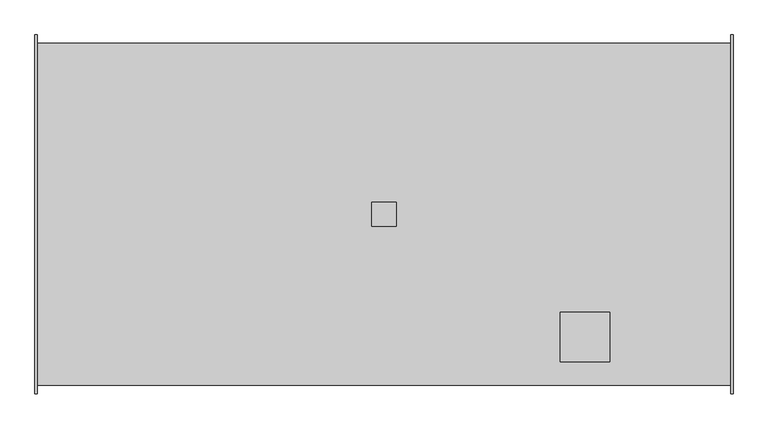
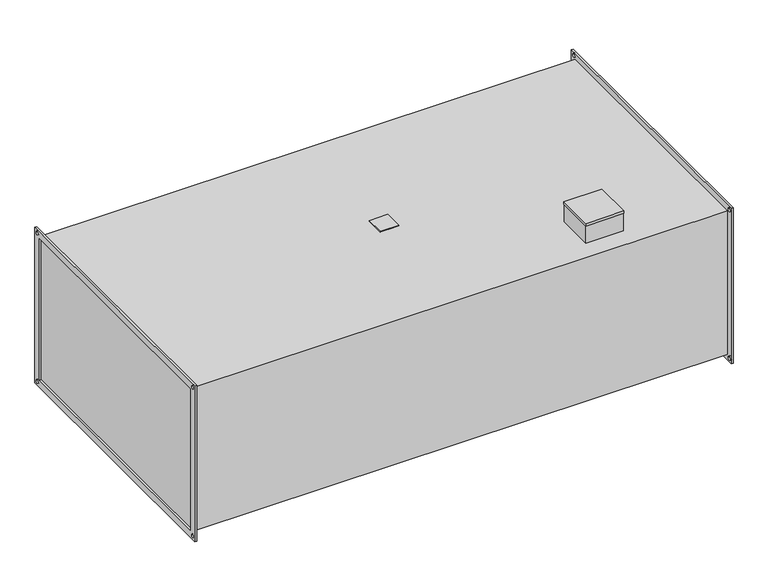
"""IFC4 building model written with IfcOpenShell, lengths in millimetres: damper geometry, KORF_Секция бактерицидной обработки воздуха_SBOW : SBOW 70-40/111 (36)."""

from ifc_helpers import new_model, si_unit, point, frame, frame_2d, origin, place, context, project, spatial, polyline, circle_curve, trimmed, segment, composite_curve, outline, extrude, faceted_brep, source, transform, mapped, element, save


def damper_4910c77a(model_context):
    return source(origin(), model_context, "Body", "SolidModel", [
        extrude(outline(polyline([(695.0, -25.0), (695.0, 25.0), (745.0, 25.0), (745.0, -25.0), (695.0, -25.0)])), frame((0.0, 0.0, 203.0), z_axis=(0.0, 0.0, 1.0), x_axis=(1.0, 0.0, 0.0)), (0.0, 0.0, 1.0), 2.0),
        faceted_brep([(1186.0, -202.0, 260.0), (1084.0, -202.0, 260.0), (1084.0, -304.0, 260.0), (1186.0, -304.0, 260.0), (1186.0, -202.0, 253.0), (1186.0, -304.0, 253.0), (1084.0, -304.0, 253.0), (1084.0, -202.0, 253.0), (1185.0, -203.0, 253.0), (1085.0, -203.0, 253.0), (1085.0, -303.0, 253.0), (1185.0, -303.0, 253.0), (1185.0, -203.0, 203.0), (1185.0, -303.0, 203.0), (1085.0, -303.0, 203.0), (1085.0, -203.0, 203.0)], [[[0, 1, 2, 3]], [[4, 5, 6, 7], [8, 9, 10, 11]], [[1, 0, 4, 7]], [[2, 1, 7, 6]], [[3, 2, 6, 5]], [[0, 3, 5, 4]], [[12, 13, 14, 15]], [[12, 15, 9, 8]], [[15, 14, 10, 9]], [[14, 13, 11, 10]], [[13, 12, 8, 11]]]),
        extrude(outline(polyline([(-370.0, 220.0), (370.0, 220.0), (370.0, -220.0), (-370.0, -220.0), (-370.0, 220.0)]), holes=[polyline([(-350.0, 200.0), (-350.0, -200.0), (350.0, -200.0), (350.0, 200.0), (-350.0, 200.0)]), composite_curve([segment(trimmed(circle_curve(frame_2d((360.0, 210.0)), 4.5), [point((355.5, 210.0))], [point((364.5, 210.0))], True, "CARTESIAN"), True, "CONTINUOUS"), segment(trimmed(circle_curve(frame_2d((360.0, 210.0)), 4.5), [point((364.5, 210.0))], [point((355.5, 210.0))], True, "CARTESIAN"), True, "CONTINUOUS")], self_intersect=False), composite_curve([segment(trimmed(circle_curve(frame_2d((-360.0, 210.0)), 4.5), [point((-364.5, 210.0))], [point((-355.5, 210.0))], True, "CARTESIAN"), True, "CONTINUOUS"), segment(trimmed(circle_curve(frame_2d((-360.0, 210.0)), 4.5), [point((-355.5, 210.0))], [point((-364.5, 210.0))], True, "CARTESIAN"), True, "CONTINUOUS")], self_intersect=False), composite_curve([segment(trimmed(circle_curve(frame_2d((-360.0, -210.0)), 4.5), [point((-364.5, -210.0))], [point((-355.5, -210.0))], True, "CARTESIAN"), True, "CONTINUOUS"), segment(trimmed(circle_curve(frame_2d((-360.0, -210.0)), 4.5), [point((-355.5, -210.0))], [point((-364.5, -210.0))], True, "CARTESIAN"), True, "CONTINUOUS")], self_intersect=False), composite_curve([segment(trimmed(circle_curve(frame_2d((360.0, -210.0)), 4.5), [point((355.5, -210.0))], [point((364.5, -210.0))], True, "CARTESIAN"), True, "CONTINUOUS"), segment(trimmed(circle_curve(frame_2d((360.0, -210.0)), 4.5), [point((364.5, -210.0))], [point((355.5, -210.0))], True, "CARTESIAN"), True, "CONTINUOUS")], self_intersect=False)]), frame((1435.0, 0.0, 0.0), z_axis=(1.0, 0.0, 0.0), x_axis=(0.0, 1.0, 0.0)), (0.0, 0.0, 1.0), 5.0),
        extrude(outline(polyline([(-370.0, 220.0), (370.0, 220.0), (370.0, -220.0), (-370.0, -220.0), (-370.0, 220.0)]), holes=[polyline([(-350.0, 200.0), (-350.0, -200.0), (350.0, -200.0), (350.0, 200.0), (-350.0, 200.0)]), composite_curve([segment(trimmed(circle_curve(frame_2d((360.0, 210.0)), 4.5), [point((355.5, 210.0))], [point((364.5, 210.0))], True, "CARTESIAN"), True, "CONTINUOUS"), segment(trimmed(circle_curve(frame_2d((360.0, 210.0)), 4.5), [point((364.5, 210.0))], [point((355.5, 210.0))], True, "CARTESIAN"), True, "CONTINUOUS")], self_intersect=False), composite_curve([segment(trimmed(circle_curve(frame_2d((-360.0, 210.0)), 4.5), [point((-364.5, 210.0))], [point((-355.5, 210.0))], True, "CARTESIAN"), True, "CONTINUOUS"), segment(trimmed(circle_curve(frame_2d((-360.0, 210.0)), 4.5), [point((-355.5, 210.0))], [point((-364.5, 210.0))], True, "CARTESIAN"), True, "CONTINUOUS")], self_intersect=False), composite_curve([segment(trimmed(circle_curve(frame_2d((-360.0, -210.0)), 4.5), [point((-364.5, -210.0))], [point((-355.5, -210.0))], True, "CARTESIAN"), True, "CONTINUOUS"), segment(trimmed(circle_curve(frame_2d((-360.0, -210.0)), 4.5), [point((-355.5, -210.0))], [point((-364.5, -210.0))], True, "CARTESIAN"), True, "CONTINUOUS")], self_intersect=False), composite_curve([segment(trimmed(circle_curve(frame_2d((360.0, -210.0)), 4.5), [point((355.5, -210.0))], [point((364.5, -210.0))], True, "CARTESIAN"), True, "CONTINUOUS"), segment(trimmed(circle_curve(frame_2d((360.0, -210.0)), 4.5), [point((364.5, -210.0))], [point((355.5, -210.0))], True, "CARTESIAN"), True, "CONTINUOUS")], self_intersect=False)]), frame((0.0, 0.0, 0.0), z_axis=(1.0, 0.0, 0.0), x_axis=(0.0, 1.0, 0.0)), (0.0, 0.0, 1.0), 5.0),
        extrude(outline(polyline([(1435.0, 353.0), (1435.0, -353.0), (5.0, -353.0), (5.0, 353.0), (1435.0, 353.0)])), frame((0.0, 0.0, -203.0), z_axis=(0.0, 0.0, 1.0), x_axis=(1.0, 0.0, 0.0)), (0.0, 0.0, 1.0), 406.0),
    ])


if __name__ == "__main__":
    model = new_model("IFC4")
    model_context = context("Model", 3, world=origin())
    ifc_project = project(units=[si_unit("LENGTHUNIT", "METRE", prefix="MILLI")], contexts=[model_context])
    site = spatial("IfcSite", under=ifc_project)
    building = spatial("IfcBuilding", under=site)
    placement = place(None, origin())
    damper_shape = damper_4910c77a(model_context)
    element("IfcDamper", 1, ObjectType="KORF_Секция бактерицидной обработки воздуха_SBOW : SBOW 70-40/111 (36)", at=placement, inside=building, context=model_context, shape_type="MappedRepresentation", body=[
        mapped(damper_shape, transform((0.0, 0.0, 0.0), x_axis=(1.0, 0.0, 0.0), y_axis=(0.0, 1.0, 0.0), z_axis=(0.0, 0.0, 1.0))),
    ])
    save(model, "model.ifc")
